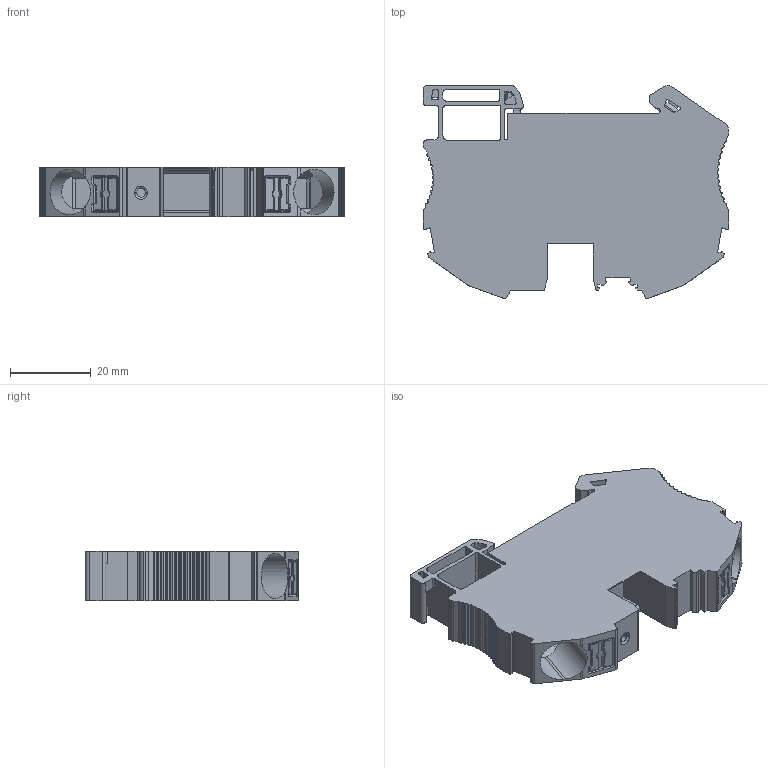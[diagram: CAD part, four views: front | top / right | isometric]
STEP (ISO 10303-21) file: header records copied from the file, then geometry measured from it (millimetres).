
FILE_DESCRIPTION((''),'2;1');
FILE_NAME('UPT-16PE_ASSY','2024-03-29T16:30:17',('Administrator'),(''),'CREO PARAMETRIC BY PTC INC, 2018050','CREO PARAMETRIC BY PTC INC, 2018050','');
FILE_SCHEMA(('CONFIG_CONTROL_DESIGN'));
Length unit declared in the file: millimetre
Products named in the file (1): UPT-16PE_ASSY
Bounding box: 75.4 x 52.63 x 12.15 mm (x, y, z)
Volume: 31165 mm3; surface area: 15721.9 mm2
Topology: 1 solids, 8 shells, 1048 faces, 3006 edges, 1931 vertices
Faces by surface type: cylinder 484, plane 454, sphere 34, torus 30, cone 30, extrusion 9, bspline 7
Entity records: 35300 total; most frequent: CARTESIAN_POINT 7582, ORIENTED_EDGE 5940, DIRECTION 5828, EDGE_CURVE 2970, AXIS2_PLACEMENT_3D 2030, VERTEX_POINT 1931, VECTOR 1768, LINE 1759
